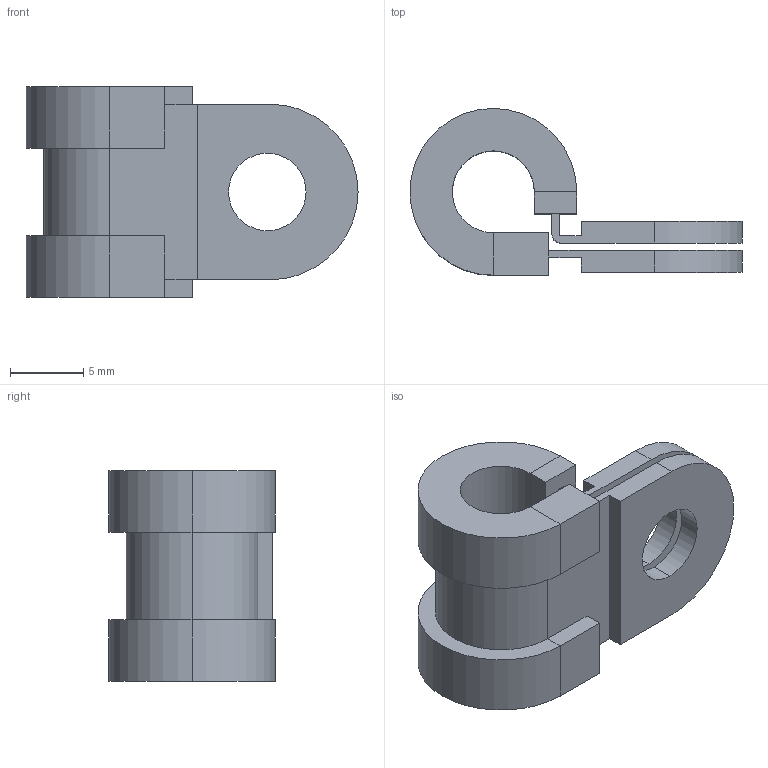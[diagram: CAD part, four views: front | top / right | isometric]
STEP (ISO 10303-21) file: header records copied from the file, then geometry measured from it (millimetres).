
FILE_DESCRIPTION (( 'STEP AP203' ), '1' );
FILE_NAME ('3D-R396-8_173763140.STEP', '2024-08-29T14:41:42', ( '' ), ( '' ), 'SwSTEP 2.0', 'SolidWorks 2024', '' );
FILE_SCHEMA (( 'CONFIG_CONTROL_DESIGN' ));
Length unit declared in the file: millimetre
Products named in the file (1): 3D-R396-8_173763140
Bounding box: 22.7 x 11.4 x 14.4 mm (x, y, z)
Volume: 1163.2 mm3; surface area: 1647.1 mm2
Topology: 1 solids, 1 shells, 50 faces, 128 edges, 80 vertices
Faces by surface type: plane 34, cylinder 16
Entity records: 1581 total; most frequent: DIRECTION 262, CARTESIAN_POINT 259, ORIENTED_EDGE 256, EDGE_CURVE 128, LINE 96, VECTOR 96, AXIS2_PLACEMENT_3D 83, VERTEX_POINT 80
